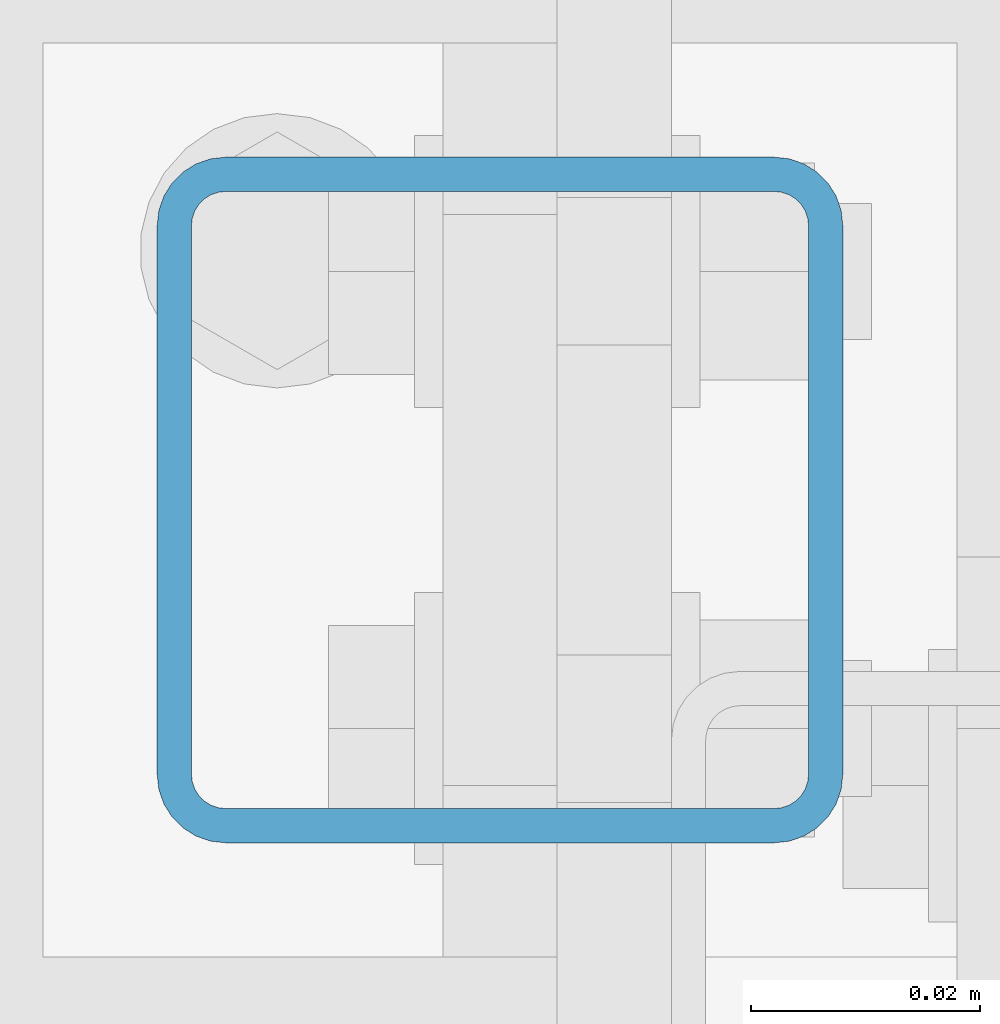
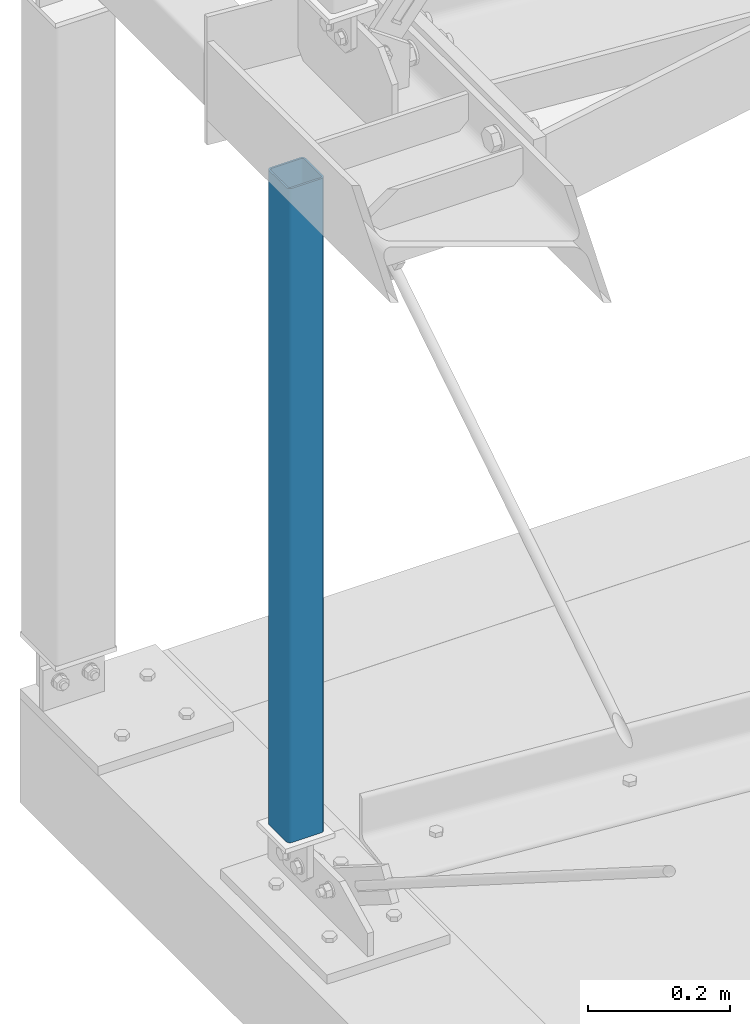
# One storey, part 25 of 271: 1 beam, 1 element without a shape of its own.
"""IFC2X3 building model written with IfcOpenShell, lengths in millimetres."""

from ifc_helpers import new_model, si_unit, frame, origin_with_axes, origin_2d_with_axis, place, context, subcontext, project, spatial, hollow_rectangle, extrude, clip, halfspace, material, type_object, element, aggregate, save


model = new_model("IFC2X3")

# Units and contexts
model_context = context("Model", 3, precision=1e-05, world=origin_with_axes())
body_context = subcontext(model_context, "Body", "Model", "MODEL_VIEW")
ifc_project = project(units=[si_unit("LENGTHUNIT", "METRE", prefix="MILLI"), si_unit("AREAUNIT", "SQUARE_METRE"), si_unit("VOLUMEUNIT", "CUBIC_METRE"), si_unit("MASSUNIT", "GRAM", prefix="KILO"), si_unit("TIMEUNIT", "SECOND"), si_unit("PLANEANGLEUNIT", "RADIAN"), si_unit("SOLIDANGLEUNIT", "STERADIAN"), si_unit("THERMODYNAMICTEMPERATUREUNIT", "DEGREE_CELSIUS"), si_unit("LUMINOUSINTENSITYUNIT", "LUMEN")], contexts=[model_context])

# Site, building, storey
site_placement = place(None, origin_with_axes())
site = spatial("IfcSite", under=ifc_project, at=site_placement, Name="Undefined", CompositionType="ELEMENT")
building_placement = place(site_placement, origin_with_axes())
building = spatial("IfcBuilding", under=site, at=building_placement, Name="Undefined", CompositionType="ELEMENT")
storey_placement = place(building_placement, origin_with_axes())
storey = spatial("IfcBuildingStorey", under=building, at=storey_placement, Name="Undefined", CompositionType="ELEMENT", Elevation=0.0)

# Assembly, beam
assembly_placement = place(storey_placement, origin_with_axes())
assembly = element("IfcElementAssembly", 1, at=assembly_placement, inside=storey, AssemblyPlace="NOTDEFINED", PredefinedType="RIGID_FRAME")
ifc_material = material(Name="STEEL/S355JR")
beam_type = type_object("IfcBeamType", Name="SHS60*3", PredefinedType="NOTDEFINED")
beam_placement = place(assembly_placement, frame((77.9999996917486, 4337.19355050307, 4.34999990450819), z_axis=(0.0, 1.0, 0.0), x_axis=(0.0, 0.0, 1.0)))
beam = element("IfcBeam", 2, at=beam_placement, type_object=beam_type, material=ifc_material, Name="TĘŻNIK", ObjectType="SHS60*3", context=body_context, shape_type="Clipping", body=[
    clip(clip(extrude(hollow_rectangle(XDim=60.0, YDim=60.0, WallThickness=3.0, InnerFilletRadius=3.0, OuterFilletRadius=6.0, at=origin_2d_with_axis()), frame((1360.0, 0.0, 0.0), z_axis=(-1.0, 0.0, 1.38777878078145e-17), x_axis=(0.0, -1.0, 0.0)), (0.0, 0.0, 1.0), 1360.0), halfspace(frame((1228.7000000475, 15.0, 0.0), z_axis=(-1.0, 0.0, 1.38777878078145e-17), x_axis=(0.0, 0.0, 1.0)), True)), halfspace(frame((103.6500000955, 0.0, 1000.0), z_axis=(1.0, 0.0, 0.0), x_axis=(0.0, 1.0, 0.0)), True)),
])
aggregate(assembly, [beam])

save(model, "model.ifc")
